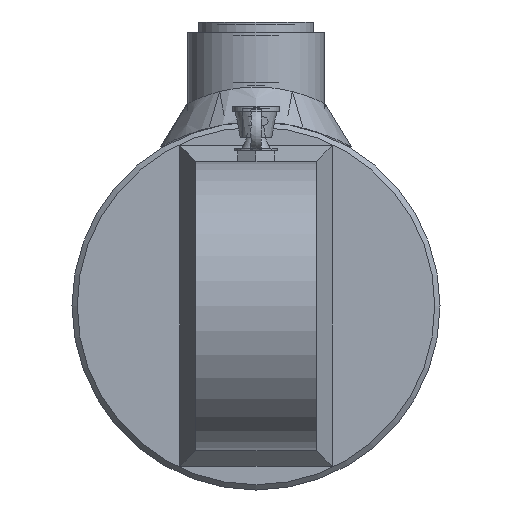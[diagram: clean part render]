
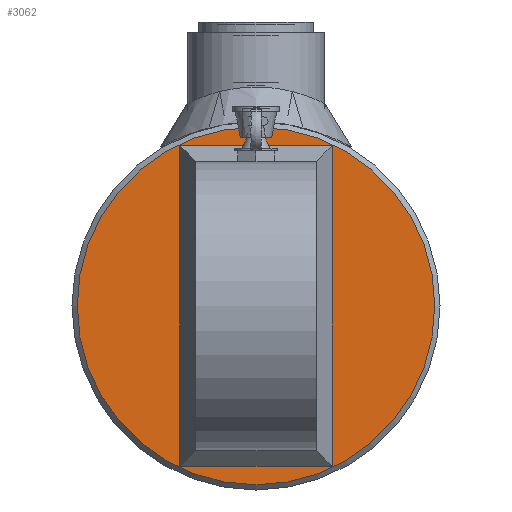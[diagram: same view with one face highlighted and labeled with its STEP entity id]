
A CAD part, left-side view. The second image highlights one B-rep face of the part: STEP entity #3062.
In plain terms, the highlighted planar face has unit normal (-1, 0, 0).
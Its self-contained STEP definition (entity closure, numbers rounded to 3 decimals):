
#3062 = ADVANCED_FACE( '', ( #7283 ), #7284, .T. );
#7283 = FACE_OUTER_BOUND( '', #9192, .T. );
#7284 = PLANE( '', #9193 );
#9192 = EDGE_LOOP( '', ( #10068 ) );
#9193 = AXIS2_PLACEMENT_3D( '', #10069, #10070, #10071 );
#10068 = ORIENTED_EDGE( '', *, *, #11212, .T. );
#10069 = CARTESIAN_POINT( '', ( -12., 0., 0. ) );
#10070 = DIRECTION( '', ( -1., 0., 0. ) );
#10071 = DIRECTION( '', ( 0., -1., 0. ) );
#11212 = EDGE_CURVE( '', #13759, #13759, #13760, .T. );
#13759 = VERTEX_POINT( '', #14755 );
#13760 = CIRCLE( '', #14756, 34. );
#14755 = CARTESIAN_POINT( '', ( -12., -34., 0. ) );
#14756 = AXIS2_PLACEMENT_3D( '', #14957, #14958, #14959 );
#14957 = CARTESIAN_POINT( '', ( -12., 0., 0. ) );
#14958 = DIRECTION( '', ( -1., 0., 0. ) );
#14959 = DIRECTION( '', ( 0., -1., 0. ) );
